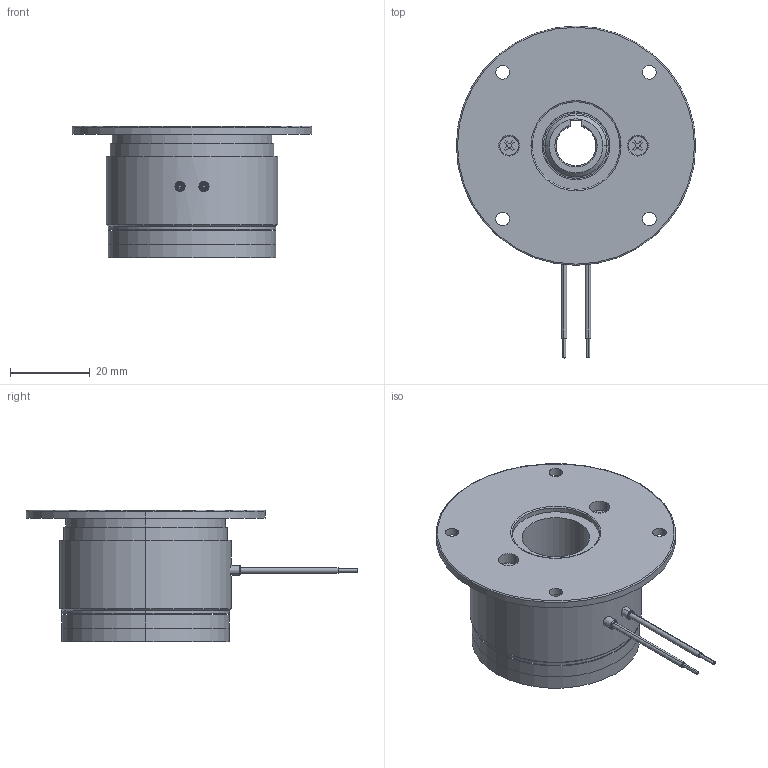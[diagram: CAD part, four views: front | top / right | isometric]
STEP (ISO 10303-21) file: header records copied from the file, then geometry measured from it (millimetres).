
FILE_DESCRIPTION (( 'STEP AP214' ), '1' );
FILE_NAME ('04P1120.STEP', '2026-04-23T06:20:45', ( '' ), ( '' ), 'SwSTEP 2.0', 'SolidWorks 2025', '' );
FILE_SCHEMA (( 'AUTOMOTIVE_DESIGN' ));
Length unit declared in the file: millimetre
Products named in the file (10): 10088630swp000; 10088626swp000_genietet (2,35mm Klemmlänge); 10088628swp000; 10088629swp000; 10088627swa000; 10088626swp000_Einbaulänge 2,15mm; 04P1120; 10088631swa000; 10088625swp000; 10088614swp000
Assembly tree (18 placements, depth 4):
  04P1120
    10088614swp000
    10088631swa000
      10088630swp000
      10088627swa000
        10088628swp000
        10088625swp000
        10088626swp000_genietet (2,35mm Klemmlänge)  x3
        10088629swp000  x3
      10088626swp000_Einbaulänge 2,15mm  x3
      10088629swp000  x3
Bounding box: 60 x 83.2 x 33 mm (x, y, z)
Volume: 41704.8 mm3; surface area: 20620.8 mm2
Topology: 18 solids, 18 shells, 380 faces, 862 edges, 528 vertices
Faces by surface type: cylinder 163, cone 94, plane 71, torus 40, sphere 12
Entity records: 8249 total; most frequent: DIRECTION 1524, CARTESIAN_POINT 1443, ORIENTED_EDGE 1228, AXIS2_PLACEMENT_3D 633, EDGE_CURVE 614, VERTEX_POINT 384, CIRCLE 344, EDGE_LOOP 338
